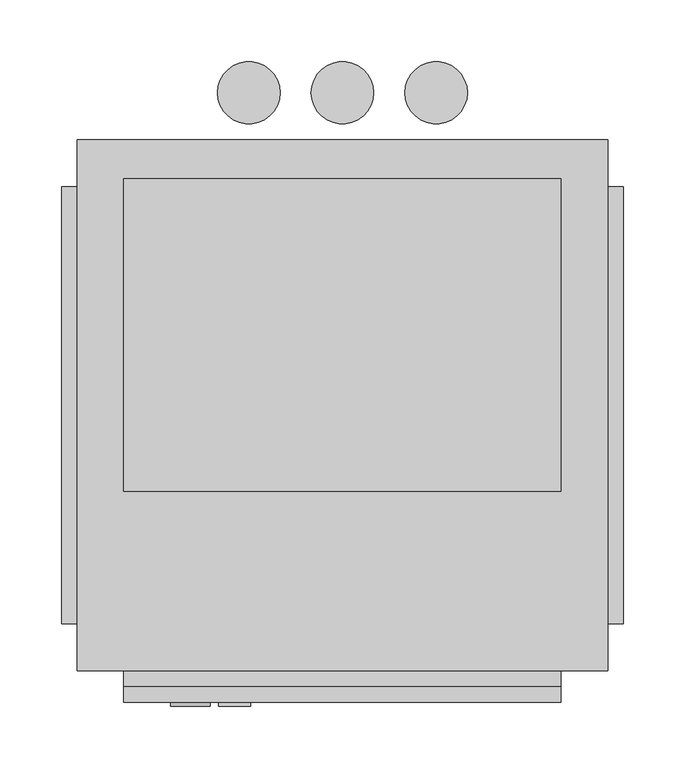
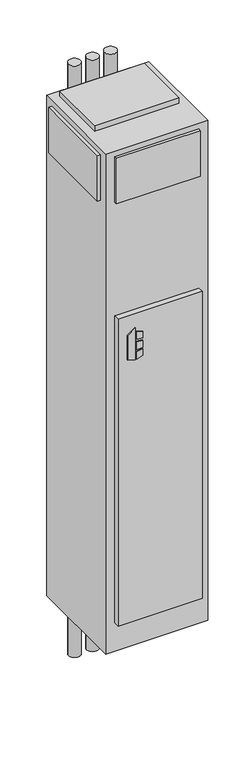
"""IFC4 building model written with IfcOpenShell, lengths in millimetres: proxy geometry, Concealed_Modular_Fan_Coil_Unit_-_MPY_-_IEC_-_2-Pipe_Cool-EHeat_-_WithRisers_2022 : Size 03 - 277v/60Hz/1Ph - 4 Row 3.0kW."""

from ifc_helpers import new_model, si_unit, point, frame, frame_2d, origin, origin_with_axes, place, context, project, spatial, polyline, circle_curve, trimmed, segment, composite_curve, outline, extrude, source, transform, mapped, element, save


def mechanical_equipment_e82e2682(model_context):
    return source(origin(), model_context, "Body", "SweptSolid", [
        extrude(outline(polyline([(1305.3480703, 228.6), (1295.4, 260.7733866), (1437.5709244, 260.7733866), (1414.5489183, 228.6), (1305.3480703, 228.6)])), frame((0.0, -215.9, 0.0), z_axis=(0.0, 1.0, 0.0), x_axis=(0.0, 0.0, 1.0)), (0.0, 0.0, 1.0), 3.175),
        extrude(outline(polyline([(1384.3473557, 267.5317195), (1381.1449632, 293.6131138), (1410.3738042, 293.6131138), (1418.4382193, 267.5317195), (1384.3473557, 267.5317195)])), frame((0.0, -215.9, 0.0), z_axis=(0.0, 1.0, 0.0), x_axis=(0.0, 0.0, 1.0)), (0.0, 0.0, 1.0), 3.175),
        extrude(outline(polyline([(1332.4838288, 293.6131138), (1328.8183279, 267.5317195), (1295.4, 267.5317195), (1304.0342372, 293.6131138), (1332.4838288, 293.6131138)])), frame((0.0, -215.9, 0.0), z_axis=(0.0, 1.0, 0.0), x_axis=(0.0, 0.0, 1.0)), (0.0, 0.0, 1.0), 3.175),
        extrude(outline(polyline([(1371.7989903, 293.6131138), (1374.0808166, 267.5317195), (1338.1432681, 267.5317195), (1340.8845331, 293.6131138), (1371.7989903, 293.6131138)])), frame((0.0, -215.9, 0.0), z_axis=(0.0, 1.0, 0.0), x_axis=(0.0, 0.0, 1.0)), (0.0, 0.0, 1.0), 3.175),
        extrude(outline(composite_curve([segment(trimmed(circle_curve(frame_2d((368.3, 282.575)), 25.4), [point((342.9, 282.575))], [point((393.7, 282.575))], False, "CARTESIAN"), True, "CONTINUOUS"), segment(trimmed(circle_curve(frame_2d((368.3, 282.575)), 25.4), [point((393.7, 282.575))], [point((342.9, 282.575))], False, "CARTESIAN"), True, "CONTINUOUS")], self_intersect=False)), frame((0.0, 0.0, -330.2), z_axis=(0.0, 0.0, 1.0), x_axis=(1.0, 0.0, 0.0)), (0.0, 0.0, 1.0), 2641.6),
        extrude(outline(composite_curve([segment(trimmed(circle_curve(frame_2d((444.5, 282.575)), 25.4), [point((419.1, 282.575))], [point((469.9, 282.575))], False, "CARTESIAN"), True, "CONTINUOUS"), segment(trimmed(circle_curve(frame_2d((444.5, 282.575)), 25.4), [point((469.9, 282.575))], [point((419.1, 282.575))], False, "CARTESIAN"), True, "CONTINUOUS")], self_intersect=False)), frame((0.0, 0.0, -330.2), z_axis=(0.0, 0.0, 1.0), x_axis=(1.0, 0.0, 0.0)), (0.0, 0.0, 1.0), 2641.6),
        extrude(outline(composite_curve([segment(trimmed(circle_curve(frame_2d((292.1, 282.575)), 25.4), [point((266.7, 282.575))], [point((317.5, 282.575))], False, "CARTESIAN"), True, "CONTINUOUS"), segment(trimmed(circle_curve(frame_2d((292.1, 282.575)), 25.4), [point((317.5, 282.575))], [point((266.7, 282.575))], False, "CARTESIAN"), True, "CONTINUOUS")], self_intersect=False)), frame((0.0, 0.0, -330.2), z_axis=(0.0, 0.0, 1.0), x_axis=(1.0, 0.0, 0.0)), (0.0, 0.0, 1.0), 2641.6),
        extrude(outline(polyline([(546.1, 212.725), (546.1, -41.275), (190.5, -41.275), (190.5, 212.725), (546.1, 212.725)])), frame((0.0, 0.0, 2235.2), z_axis=(0.0, 0.0, 1.0), x_axis=(1.0, 0.0, 0.0)), (0.0, 0.0, 1.0), 25.4),
        extrude(outline(polyline([(139.7, -149.225), (139.7, 206.375), (152.4, 206.375), (152.4, -149.225), (139.7, -149.225)])), frame((0.0, 0.0, 2006.6), z_axis=(0.0, 0.0, 1.0), x_axis=(1.0, 0.0, 0.0)), (0.0, 0.0, 1.0), 203.2),
        extrude(outline(polyline([(596.9, 206.375), (596.9, -149.225), (584.2, -149.225), (584.2, 206.375), (596.9, 206.375)])), frame((0.0, 0.0, 2006.6), z_axis=(0.0, 0.0, 1.0), x_axis=(1.0, 0.0, 0.0)), (0.0, 0.0, 1.0), 203.2),
        extrude(outline(polyline([(546.1, -200.025), (190.5, -200.025), (190.5, -187.325), (546.1, -187.325), (546.1, -200.025)])), frame((0.0, 0.0, 2006.6), z_axis=(0.0, 0.0, 1.0), x_axis=(1.0, 0.0, 0.0)), (0.0, 0.0, 1.0), 203.2),
        extrude(outline(polyline([(546.1, -212.725), (190.5, -212.725), (190.5, -187.325), (546.1, -187.325), (546.1, -212.725)])), frame((0.0, 0.0, 127.0), z_axis=(0.0, 0.0, 1.0), x_axis=(1.0, 0.0, 0.0)), (0.0, 0.0, 1.0), 1371.6),
        extrude(outline(polyline([(584.2, 244.475), (584.2, -187.325), (152.4, -187.325), (152.4, 244.475), (584.2, 244.475)])), origin_with_axes(), (0.0, 0.0, 1.0), 2235.2),
    ])


if __name__ == "__main__":
    model = new_model("IFC4")
    model_context = context("Model", 3, world=origin())
    ifc_project = project(units=[si_unit("LENGTHUNIT", "METRE", prefix="MILLI")], contexts=[model_context])
    site = spatial("IfcSite", under=ifc_project)
    building = spatial("IfcBuilding", under=site)
    placement = place(None, origin())
    mechanical_equipment_shape = mechanical_equipment_e82e2682(model_context)
    element("IfcBuildingElementProxy", 1, Name="Concealed_Modular_Fan_Coil_Unit_-_MPY_-_IEC_-_2-Pipe_Cool-EHeat_-_WithRisers_2022 : Size 03 - 277v/60Hz/1Ph - 4 Row 3.0kW", ObjectType="Concealed_Modular_Fan_Coil_Unit_-_MPY_-_IEC_-_2-Pipe_Cool-EHeat_-_WithRisers_2022 : Size 03 - 277v/60Hz/1Ph - 4 Row 3.0kW", at=placement, inside=building, context=model_context, shape_type="MappedRepresentation", body=[
        mapped(mechanical_equipment_shape, transform((0.0, 0.0, 0.0), x_axis=(1.0, 0.0, 0.0), y_axis=(0.0, 1.0, 0.0), z_axis=(0.0, 0.0, 1.0))),
    ])
    save(model, "model.ifc")
